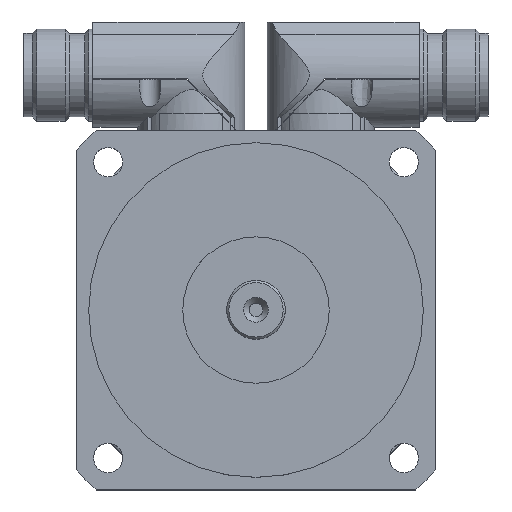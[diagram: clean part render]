
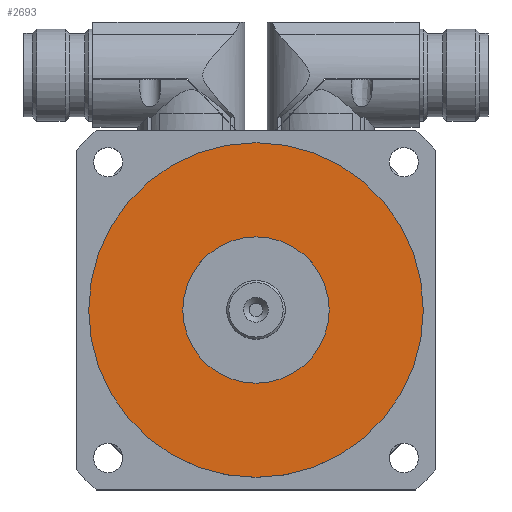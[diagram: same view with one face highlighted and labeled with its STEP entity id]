
A CAD part, top view. The second image highlights one B-rep face of the part: STEP entity #2693.
In plain terms, the highlighted planar face has unit normal (0, 0, 1).
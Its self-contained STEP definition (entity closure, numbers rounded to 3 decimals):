
#295=CIRCLE('',#2854,17.5);
#296=CIRCLE('',#2857,40.);
#468=VERTEX_POINT('',#4416);
#469=VERTEX_POINT('',#4420);
#1174=EDGE_CURVE('',#468,#468,#295,.T.);
#1175=EDGE_CURVE('',#469,#469,#296,.T.);
#1608=ORIENTED_EDGE('',*,*,#1175,.F.);
#1609=ORIENTED_EDGE('',*,*,#1174,.T.);
#2297=EDGE_LOOP('',(#1608));
#2298=EDGE_LOOP('',(#1609));
#2501=FACE_BOUND('',#2297,.T.);
#2502=FACE_BOUND('',#2298,.T.);
#2693=ADVANCED_FACE('',(#2501,#2502),#5603,.F.);
#2854=AXIS2_PLACEMENT_3D('',#4415,#3218,#3219);
#2857=AXIS2_PLACEMENT_3D('',#4419,#3223,#3224);
#2859=AXIS2_PLACEMENT_3D('',#4423,#3227,$);
#3218=DIRECTION('',(0.,0.,-1.));
#3219=DIRECTION('',(-17.5,0.,0.));
#3223=DIRECTION('',(0.,0.,-1.));
#3224=DIRECTION('',(-40.,0.,0.));
#3227=DIRECTION('',(0.,0.,-1.));
#4415=CARTESIAN_POINT('',(0.,0.,177.));
#4416=CARTESIAN_POINT('',(17.5,0.,177.));
#4419=CARTESIAN_POINT('',(0.,0.,177.));
#4420=CARTESIAN_POINT('',(40.,0.,177.));
#4423=CARTESIAN_POINT('',(0.,0.,177.));
#5603=PLANE('',#2859);
